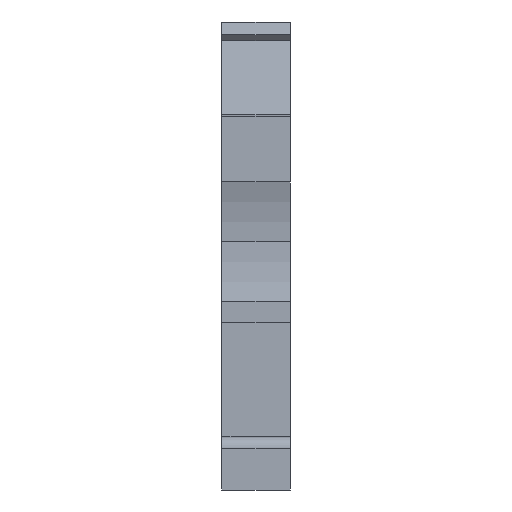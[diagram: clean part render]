
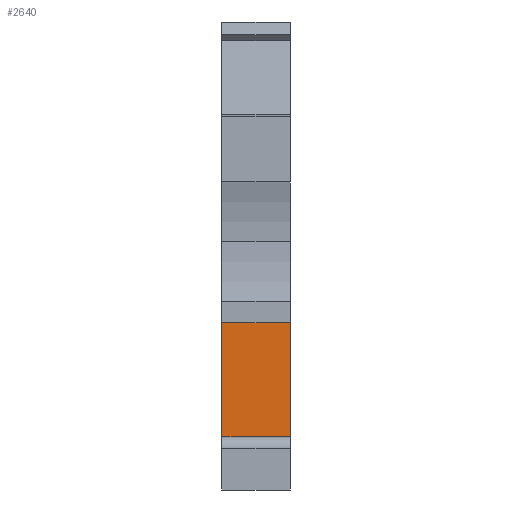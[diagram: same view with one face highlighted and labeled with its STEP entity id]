
A CAD part, front view. The second image highlights one B-rep face of the part: STEP entity #2640.
In plain terms, the highlighted planar face has unit normal (0, -1, 0).
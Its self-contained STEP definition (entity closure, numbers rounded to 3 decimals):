
#32=CARTESIAN_POINT('',(-0.,3.6,4.));
#33=VERTEX_POINT('',#32);
#34=CARTESIAN_POINT('',(-0.,3.6,12.6));
#35=VERTEX_POINT('',#34);
#36=CARTESIAN_POINT('',(-0.,3.6,4.));
#37=DIRECTION('',(-0.,-0.,1.));
#38=VECTOR('',#37,8.6);
#39=LINE('',#36,#38);
#40=EDGE_CURVE('',#33,#35,#39,.T.);
#2416=CARTESIAN_POINT('',(5.15,3.6,12.6));
#2417=VERTEX_POINT('',#2416);
#2424=CARTESIAN_POINT('',(5.15,3.6,1.5));
#2425=VERTEX_POINT('',#2424);
#2426=CARTESIAN_POINT('',(5.15,3.6,1.5));
#2427=DIRECTION('',(-0.,-0.,1.));
#2428=VECTOR('',#2427,11.1);
#2429=LINE('',#2426,#2428);
#2430=EDGE_CURVE('',#2425,#2417,#2429,.T.);
#2518=CARTESIAN_POINT('',(1.,3.6,4.));
#2519=VERTEX_POINT('',#2518);
#2520=CARTESIAN_POINT('',(-0.,3.6,4.));
#2521=DIRECTION('',(1.,-0.,0.));
#2522=VECTOR('',#2521,1.);
#2523=LINE('',#2520,#2522);
#2524=EDGE_CURVE('',#33,#2519,#2523,.T.);
#2549=CARTESIAN_POINT('',(1.,3.6,1.5));
#2550=VERTEX_POINT('',#2549);
#2559=CARTESIAN_POINT('',(1.,3.6,1.5));
#2560=DIRECTION('',(-0.,-0.,1.));
#2561=VECTOR('',#2560,2.5);
#2562=LINE('',#2559,#2561);
#2563=EDGE_CURVE('',#2550,#2519,#2562,.T.);
#2617=CARTESIAN_POINT('',(5.15,3.6,5.));
#2618=DIRECTION('',(-0.,-1.,-0.));
#2619=DIRECTION('',(-0.,-0.,1.));
#2620=AXIS2_PLACEMENT_3D('',#2617,#2618,#2619);
#2621=PLANE('',#2620);
#2622=ORIENTED_EDGE('',*,*,#2563,.F.);
#2623=CARTESIAN_POINT('',(5.15,3.6,1.5));
#2624=DIRECTION('',(-1.,0.,-0.));
#2625=VECTOR('',#2624,4.15);
#2626=LINE('',#2623,#2625);
#2627=EDGE_CURVE('',#2425,#2550,#2626,.T.);
#2628=ORIENTED_EDGE('',*,*,#2627,.F.);
#2629=ORIENTED_EDGE('',*,*,#2430,.T.);
#2630=CARTESIAN_POINT('',(-0.,3.6,12.6));
#2631=DIRECTION('',(1.,-0.,0.));
#2632=VECTOR('',#2631,5.15);
#2633=LINE('',#2630,#2632);
#2634=EDGE_CURVE('',#35,#2417,#2633,.T.);
#2635=ORIENTED_EDGE('',*,*,#2634,.F.);
#2636=ORIENTED_EDGE('',*,*,#40,.F.);
#2637=ORIENTED_EDGE('',*,*,#2524,.T.);
#2638=EDGE_LOOP('',(#2622,#2628,#2629,#2635,#2636,#2637));
#2639=FACE_BOUND('',#2638,.T.);
#2640=ADVANCED_FACE('',(#2639),#2621,.T.);
